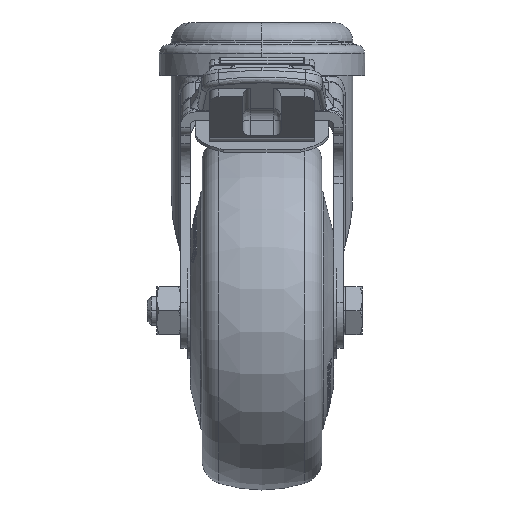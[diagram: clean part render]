
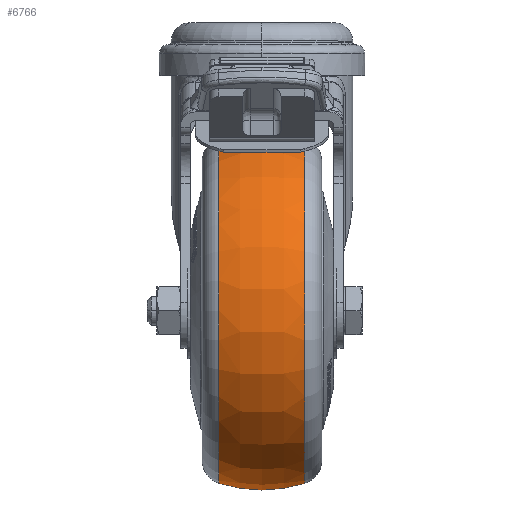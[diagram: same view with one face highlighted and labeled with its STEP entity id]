
A CAD part, top view. The second image highlights one B-rep face of the part: STEP entity #6766.
In plain terms, the highlighted toroidal (fillet/blend) face has major radius 7.5 mm and minor radius 30 mm.
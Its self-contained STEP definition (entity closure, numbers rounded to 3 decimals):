
#6766 = ADVANCED_FACE ( 'NONE', ( #74619 ), #69359, .T. ) ;
#13537 = EDGE_CURVE ( 'NONE', #86769, #86767, #66341, .T. ) ;
#13541 = EDGE_CURVE ( 'NONE', #86764, #92279, #66350, .T. ) ;
#13542 = EDGE_CURVE ( 'NONE', #92279, #86767, #66352, .T. ) ;
#13543 = EDGE_CURVE ( 'NONE', #86764, #86769, #66356, .T. ) ;
#42700 = CARTESIAN_POINT ( 'NONE',  ( 9., 0., -36.118 ) ) ;
#60654 = CARTESIAN_POINT ( 'NONE',  ( -9., 0., 0. ) ) ;
#60656 = DIRECTION ( 'NONE',  ( -1., 0., 0. ) ) ;
#60658 = DIRECTION ( 'NONE',  ( 0., 0., 1. ) ) ;
#60684 = CARTESIAN_POINT ( 'NONE',  ( 9., 0., 0. ) ) ;
#60686 = DIRECTION ( 'NONE',  ( -1., 0., 0. ) ) ;
#60688 = DIRECTION ( 'NONE',  ( 0., 0., 1. ) ) ;
#60692 = CARTESIAN_POINT ( 'NONE',  ( 0., 0., -7.5 ) ) ;
#60694 = DIRECTION ( 'NONE',  ( 0., 1., 0. ) ) ;
#60695 = DIRECTION ( 'NONE',  ( 0., 0., 1. ) ) ;
#60698 = CARTESIAN_POINT ( 'NONE',  ( 0., 0., 7.5 ) ) ;
#60700 = DIRECTION ( 'NONE',  ( 0., -1., 0. ) ) ;
#60702 = DIRECTION ( 'NONE',  ( 0., 0., -1. ) ) ;
#66341 = CIRCLE ( 'NONE', #66347, 36.118 ) ;
#66347 = AXIS2_PLACEMENT_3D ( 'NONE', #60654, #60656, #60658 ) ;
#66350 = CIRCLE ( 'NONE', #66355, 36.118 ) ;
#66352 = CIRCLE ( 'NONE', #66357, 30. ) ;
#66355 = AXIS2_PLACEMENT_3D ( 'NONE', #60684, #60686, #60688 ) ;
#66356 = CIRCLE ( 'NONE', #66360, 30. ) ;
#66357 = AXIS2_PLACEMENT_3D ( 'NONE', #60692, #60694, #60695 ) ;
#66360 = AXIS2_PLACEMENT_3D ( 'NONE', #60698, #60700, #60702 ) ;
#69359 = TOROIDAL_SURFACE ( 'NONE', #69363, 7.5, 30. ) ;
#69363 = AXIS2_PLACEMENT_3D ( 'NONE', #74653, #74675, #74676 ) ;
#74619 = FACE_OUTER_BOUND ( 'NONE', #92727, .T. ) ;
#74653 = CARTESIAN_POINT ( 'NONE',  ( 0., 0., 0. ) ) ;
#74675 = DIRECTION ( 'NONE',  ( -1., 0., 0. ) ) ;
#74676 = DIRECTION ( 'NONE',  ( 0., 0., 1. ) ) ;
#86764 = VERTEX_POINT ( 'NONE', #99551 ) ;
#86767 = VERTEX_POINT ( 'NONE', #99586 ) ;
#86769 = VERTEX_POINT ( 'NONE', #99587 ) ;
#92279 = VERTEX_POINT ( 'NONE', #42700 ) ;
#92727 = EDGE_LOOP ( 'NONE', ( #98067, #98066, #98065, #98064 ) ) ;
#98064 = ORIENTED_EDGE ( 'NONE', *, *, #13543, .F. ) ;
#98065 = ORIENTED_EDGE ( 'NONE', *, *, #13537, .F. ) ;
#98066 = ORIENTED_EDGE ( 'NONE', *, *, #13542, .T. ) ;
#98067 = ORIENTED_EDGE ( 'NONE', *, *, #13541, .T. ) ;
#99551 = CARTESIAN_POINT ( 'NONE',  ( 9., 0., 36.118 ) ) ;
#99586 = CARTESIAN_POINT ( 'NONE',  ( -9., 0., -36.118 ) ) ;
#99587 = CARTESIAN_POINT ( 'NONE',  ( -9., 0., 36.118 ) ) ;
